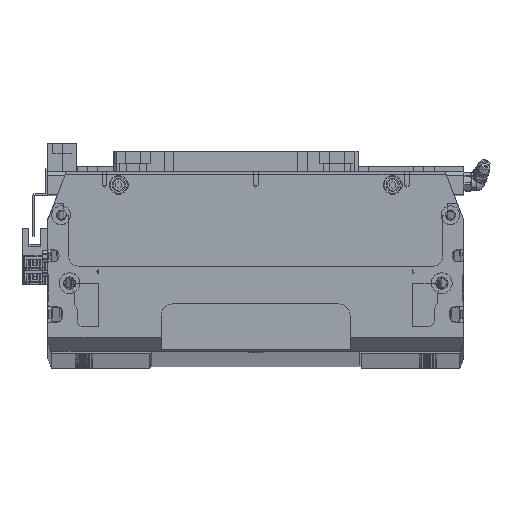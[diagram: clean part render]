
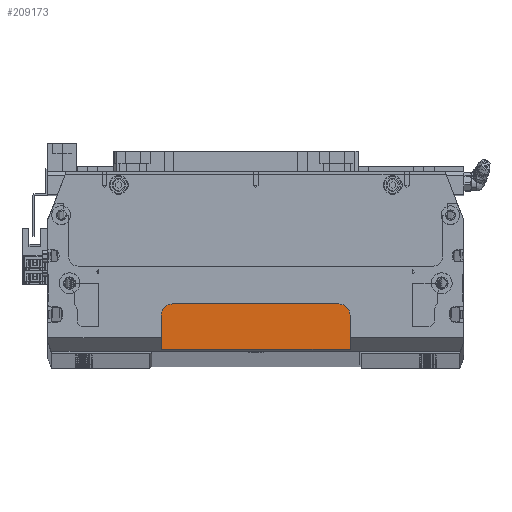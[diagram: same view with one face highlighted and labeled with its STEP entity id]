
A CAD part, top view. The second image highlights one B-rep face of the part: STEP entity #209173.
In plain terms, the highlighted planar face has unit normal (0, 0, 1) as drawn and (0, 1, 0) by its records, which use the part's own axes.
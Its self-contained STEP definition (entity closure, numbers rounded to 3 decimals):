
#167 = VERTEX_POINT ( 'NONE', #383976 ) ;
#26183 = EDGE_CURVE ( 'NONE', #375572, #449608, #468290, .T. ) ;
#35641 = CIRCLE ( 'NONE', #321362, 6. ) ;
#41190 = CARTESIAN_POINT ( 'NONE',  ( 44., 8., 39.25 ) ) ;
#57137 = CARTESIAN_POINT ( 'NONE',  ( 110., 8., 57.25 ) ) ;
#59679 = DIRECTION ( 'NONE',  ( 0., 0., -1. ) ) ;
#79485 = VECTOR ( 'NONE', #375792, 1000. ) ;
#84137 = EDGE_LOOP ( 'NONE', ( #257888, #374873, #153672, #106401, #135356, #435874 ) ) ;
#94971 = CARTESIAN_POINT ( 'NONE',  ( 0., 8., 0. ) ) ;
#99566 = VECTOR ( 'NONE', #282991, 1000. ) ;
#100101 = CARTESIAN_POINT ( 'NONE',  ( 50., 8., 58.25 ) ) ;
#106401 = ORIENTED_EDGE ( 'NONE', *, *, #222446, .T. ) ;
#114224 = VERTEX_POINT ( 'NONE', #191519 ) ;
#124242 = EDGE_CURVE ( 'NONE', #114224, #375572, #35641, .T. ) ;
#129335 = PLANE ( 'NONE',  #164879 ) ;
#131170 = AXIS2_PLACEMENT_3D ( 'NONE', #170811, #434018, #59679 ) ;
#135356 = ORIENTED_EDGE ( 'NONE', *, *, #268073, .T. ) ;
#153672 = ORIENTED_EDGE ( 'NONE', *, *, #26183, .T. ) ;
#164879 = AXIS2_PLACEMENT_3D ( 'NONE', #94971, #433373, #345035 ) ;
#170811 = CARTESIAN_POINT ( 'NONE',  ( -44., 8., 39.25 ) ) ;
#178950 = LINE ( 'NONE', #228517, #79485 ) ;
#191519 = CARTESIAN_POINT ( 'NONE',  ( 50., 8., 39.25 ) ) ;
#209173 = ADVANCED_FACE ( 'NONE', ( #390353 ), #129335, .F. ) ;
#222446 = EDGE_CURVE ( 'NONE', #449608, #167, #458447, .T. ) ;
#223670 = LINE ( 'NONE', #100101, #410904 ) ;
#228517 = CARTESIAN_POINT ( 'NONE',  ( -50., 8., 58.25 ) ) ;
#232296 = DIRECTION ( 'NONE',  ( 0., 0., -1. ) ) ;
#247015 = CARTESIAN_POINT ( 'NONE',  ( -50., 8., 33.25 ) ) ;
#255981 = CARTESIAN_POINT ( 'NONE',  ( -50., 8., 57.25 ) ) ;
#257888 = ORIENTED_EDGE ( 'NONE', *, *, #300361, .T. ) ;
#268073 = EDGE_CURVE ( 'NONE', #167, #312426, #178950, .T. ) ;
#282991 = DIRECTION ( 'NONE',  ( -1., 0., 0. ) ) ;
#283111 = CARTESIAN_POINT ( 'NONE',  ( -44., 8., 33.25 ) ) ;
#284287 = DIRECTION ( 'NONE',  ( -1., 0., 0. ) ) ;
#300361 = EDGE_CURVE ( 'NONE', #404789, #114224, #223670, .T. ) ;
#305908 = DIRECTION ( 'NONE',  ( 0., 1., 0. ) ) ;
#312426 = VERTEX_POINT ( 'NONE', #255981 ) ;
#321362 = AXIS2_PLACEMENT_3D ( 'NONE', #41190, #305908, #232296 ) ;
#321732 = LINE ( 'NONE', #57137, #462039 ) ;
#323375 = CARTESIAN_POINT ( 'NONE',  ( 50., 8., 57.25 ) ) ;
#344116 = CARTESIAN_POINT ( 'NONE',  ( 44., 8., 33.25 ) ) ;
#345035 = DIRECTION ( 'NONE',  ( 0., 0., -1. ) ) ;
#370752 = EDGE_CURVE ( 'NONE', #404789, #312426, #321732, .T. ) ;
#374873 = ORIENTED_EDGE ( 'NONE', *, *, #124242, .T. ) ;
#375572 = VERTEX_POINT ( 'NONE', #344116 ) ;
#375792 = DIRECTION ( 'NONE',  ( 0., 0., 1. ) ) ;
#383976 = CARTESIAN_POINT ( 'NONE',  ( -50., 8., 39.25 ) ) ;
#390353 = FACE_OUTER_BOUND ( 'NONE', #84137, .T. ) ;
#396044 = DIRECTION ( 'NONE',  ( 0., 0., -1. ) ) ;
#404789 = VERTEX_POINT ( 'NONE', #323375 ) ;
#410904 = VECTOR ( 'NONE', #396044, 1000. ) ;
#433373 = DIRECTION ( 'NONE',  ( 0., -1., 0. ) ) ;
#434018 = DIRECTION ( 'NONE',  ( 0., 1., 0. ) ) ;
#435874 = ORIENTED_EDGE ( 'NONE', *, *, #370752, .F. ) ;
#449608 = VERTEX_POINT ( 'NONE', #283111 ) ;
#458447 = CIRCLE ( 'NONE', #131170, 6. ) ;
#462039 = VECTOR ( 'NONE', #284287, 1000. ) ;
#468290 = LINE ( 'NONE', #247015, #99566 ) ;
